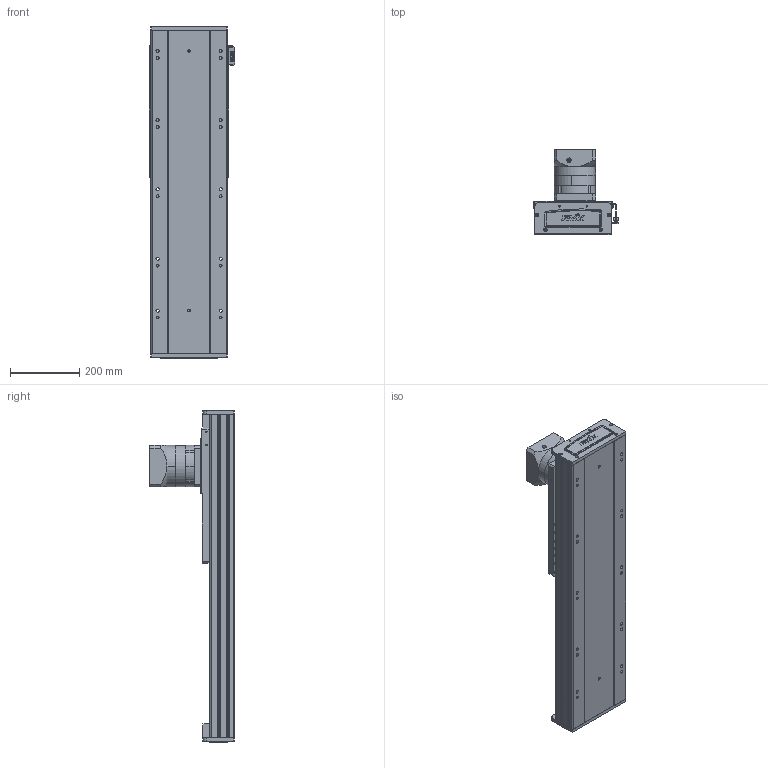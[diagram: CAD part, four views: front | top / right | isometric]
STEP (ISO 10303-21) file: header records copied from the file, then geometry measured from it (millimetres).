
FILE_DESCRIPTION (( 'STEP AP203' ), '1' );
FILE_NAME ('RY220-C-300-UK.SLDASM_0450.step', '2022-08-01T05:58:36', ( '' ), ( '' ), 'SwSTEP 2.0', 'SolidWorks 2016', '' );
FILE_SCHEMA (( 'CONFIG_CONTROL_DESIGN' ));
Length unit declared in the file: millimetre
Products named in the file (10): RY220喘沭賑輸; RY220菁釱MK-300_0450; PF115L1-S2-22-58-110-145-M8; 覜茼ん674; 滅袉蝶輸ㄗG412隅秶ㄘ; RY220-齿条模组电机安装板; RY140直线电机感应器674光电安装座; RY220喘沭俋离覜茼え; RY220-C-300-UK.SLDASM_0450; RY220喘沭綴裔啣
Assembly tree (12 placements, depth 2):
  RY220-C-300-UK.SLDASM_0450
    RY220菁釱MK-300_0450
    RY220喘沭賑輸
    RY220-齿条模组电机安装板
    PF115L1-S2-22-58-110-145-M8
    RY220喘沭綴裔啣  x2
    滅袉蝶輸ㄗG412隅秶ㄘ  x2
    RY140直线电机感应器674光电安装座
    覜茼ん674  x2
    RY220喘沭俋离覜茼え
Bounding box: 247 x 244.5 x 959 mm (x, y, z)
Volume: 9435631.6 mm3; surface area: 1782503.5 mm2
Topology: 18 solids, 26 shells, 1840 faces, 4915 edges, 3158 vertices
Faces by surface type: cylinder 811, plane 751, bspline 162, cone 116
Entity records: 57933 total; most frequent: CARTESIAN_POINT 16070, ORIENTED_EDGE 8498, DIRECTION 8475, EDGE_CURVE 4249, AXIS2_PLACEMENT_3D 3191, VERTEX_POINT 2784, VECTOR 2093, LINE 2093
